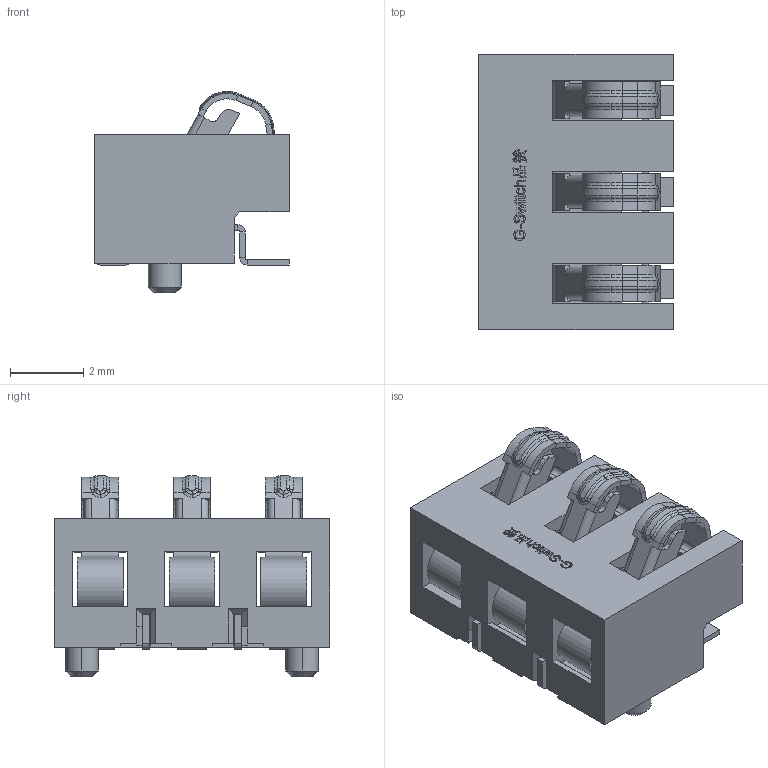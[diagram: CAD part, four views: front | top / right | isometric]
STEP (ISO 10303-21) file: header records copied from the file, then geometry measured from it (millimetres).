
FILE_DESCRIPTION (( 'STEP AP203' ), '1' );
FILE_NAME ('GT-BTP25003-0350A-010A.STEP', '2024-07-03T08:10:08', ( '' ), ( '' ), 'SwSTEP 2.0', 'SolidWorks 2023', '' );
FILE_SCHEMA (( 'CONFIG_CONTROL_DESIGN' ));
Length unit declared in the file: millimetre
Products named in the file (1): GT-BTP25003-0350A-010A
Bounding box: 5.3 x 7.5 x 5.48 mm (x, y, z)
Volume: 84.2 mm3; surface area: 374.5 mm2
Topology: 4 solids, 4 shells, 943 faces, 2415 edges, 1497 vertices
Faces by surface type: plane 645, cylinder 145, bspline 104, torus 45, cone 4
Entity records: 31904 total; most frequent: CARTESIAN_POINT 9532, ORIENTED_EDGE 4830, DIRECTION 4283, EDGE_CURVE 2415, VECTOR 1823, LINE 1823, VERTEX_POINT 1497, AXIS2_PLACEMENT_3D 1230
